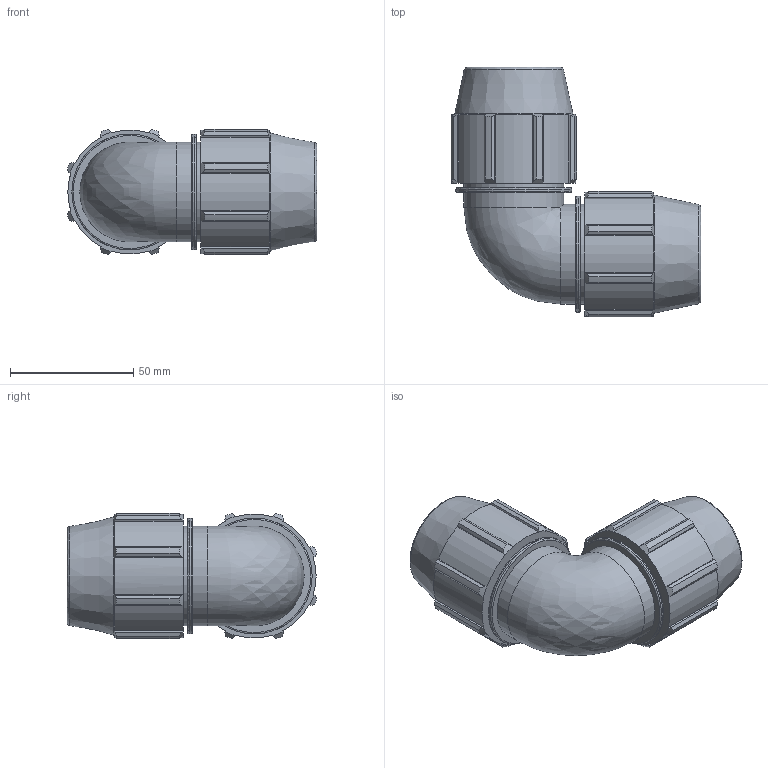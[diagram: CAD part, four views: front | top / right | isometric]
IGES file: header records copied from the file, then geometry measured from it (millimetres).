
Global section: file name: 0705M0007.ipt; native system: Autodesk Inventor 2019; preprocessor: unknown; author: KIM; date: 20210826.124606; units: inch
Bounding box: 101.4 x 101.4 x 50.91 mm (x, y, z)
Volume: 161482.6 mm3; surface area: 38814 mm2
Topology: 1 solids, 1 shells, 148 faces, 422 edges, 284 vertices
Faces by surface type: plane 76, cylinder 38, cone 20, revolution 13, bspline 1
Full cylindrical faces by diameter (mm): 40.576 x4, 47.069 x2
